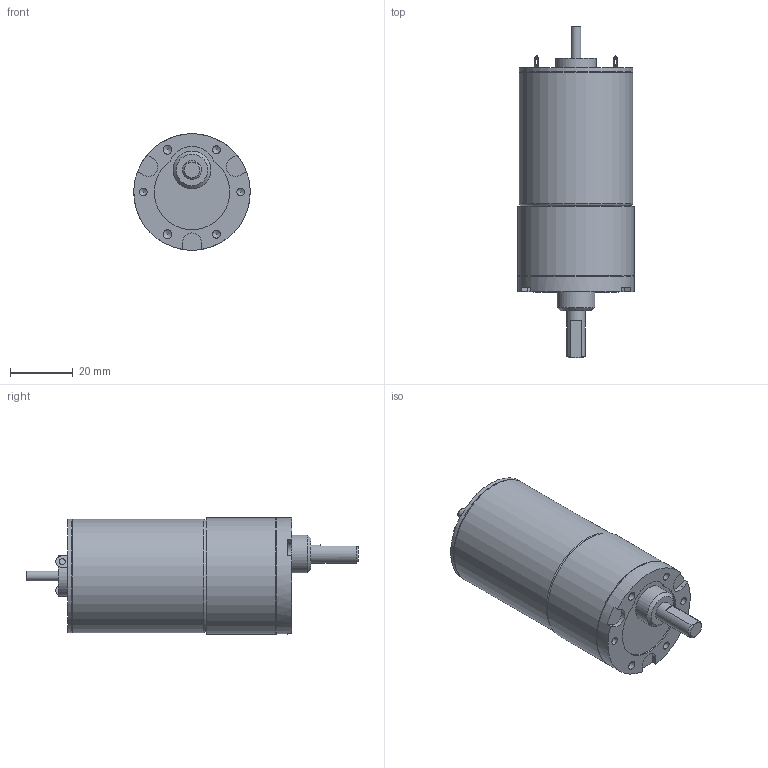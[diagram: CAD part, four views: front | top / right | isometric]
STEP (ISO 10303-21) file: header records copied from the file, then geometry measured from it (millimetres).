
FILE_DESCRIPTION((''),'2;1');
FILE_NAME('C:\Documents and Settings\SSEGAWA\デスクトップ\TP-3644L-KS-4.STP','2013-07-26T19:04:28',('SSEGAWA'),(''),'Autodesk Inventor 2010','Autodesk Inventor 2010','');
FILE_SCHEMA(('CONFIG_CONTROL_DESIGN'));
Length unit declared in the file: millimetre
Products named in the file (1): tp_3644l_ks_4_Shrinkwrap_1
Bounding box: 37 x 105.5 x 37 mm (x, y, z)
Volume: 75110.3 mm3; surface area: 11885.8 mm2
Topology: 5 solids, 5 shells, 80 faces, 181 edges, 121 vertices
Faces by surface type: plane 37, bspline 20, cylinder 19, cone 2, torus 2
Full cylindrical faces by diameter (mm): 3 x1, 3.175 x1, 3.5 x1, 6 x1, 12 x1, 13 x1, 35.6 x1, 36 x2, 36.6 x1, 37 x2
Entity records: 2254 total; most frequent: CARTESIAN_POINT 642, DIRECTION 311, ORIENTED_EDGE 242, AXIS2_PLACEMENT_3D 131, EDGE_LOOP 129, EDGE_CURVE 121, VERTEX_POINT 96, STYLED_ITEM 85
